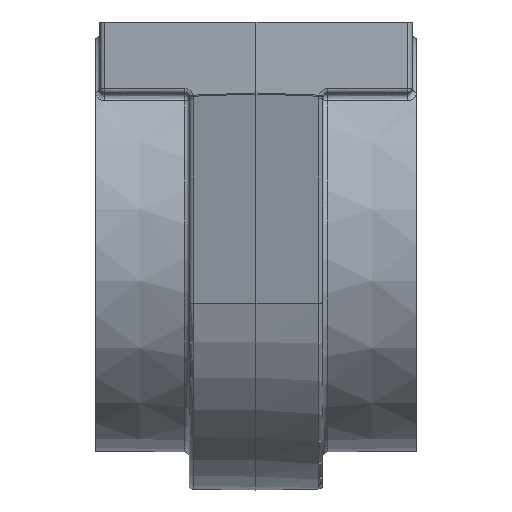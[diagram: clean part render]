
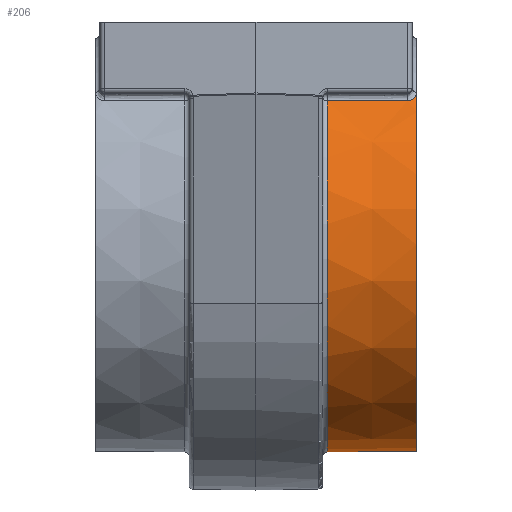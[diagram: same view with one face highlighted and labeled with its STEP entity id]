
A CAD part, left-side view. The second image highlights one B-rep face of the part: STEP entity #206.
In plain terms, the highlighted conical face has half-angle 0.5 degrees and reference radius 46.5 mm.
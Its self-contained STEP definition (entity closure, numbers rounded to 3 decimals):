
#49 = CARTESIAN_POINT ( 'NONE',  ( -31.367, -35.991, -9.956 ) ) ;
#87 = EDGE_CURVE ( 'NONE', #270, #4437, #3479, .T. ) ;
#117 = CARTESIAN_POINT ( 'NONE',  ( -31.598, -35.956, -10.169 ) ) ;
#139 = CARTESIAN_POINT ( 'NONE',  ( -33.031, -34.759, -11.553 ) ) ;
#171 = FACE_OUTER_BOUND ( 'NONE', #3664, .T. ) ;
#206 = ADVANCED_FACE ( 'NONE', ( #171 ), #820, .T. ) ;
#266 = ORIENTED_EDGE ( 'NONE', *, *, #87, .T. ) ;
#270 = VERTEX_POINT ( 'NONE', #3710 ) ;
#378 = CARTESIAN_POINT ( 'NONE',  ( -33.189, -33.325, -11.697 ) ) ;
#419 = CARTESIAN_POINT ( 'NONE',  ( 0., -12., 2.5 ) ) ;
#439 = CARTESIAN_POINT ( 'NONE',  ( 0., -35.991, -44. ) ) ;
#461 = CARTESIAN_POINT ( 'NONE',  ( -33.398, -15.991, -11.695 ) ) ;
#477 = VERTEX_POINT ( 'NONE', #1968 ) ;
#746 = CARTESIAN_POINT ( 'NONE',  ( -33.302, -23.992, -11.696 ) ) ;
#751 = CIRCLE ( 'NONE', #4375, 46.291 ) ;
#820 = CONICAL_SURFACE ( 'NONE', #3311, 46.5, 0.009 ) ;
#881 = VERTEX_POINT ( 'NONE', #4145 ) ;
#1039 = VECTOR ( 'NONE', #1814, 1000. ) ;
#1088 = CARTESIAN_POINT ( 'NONE',  ( -33.181, -33.991, -11.698 ) ) ;
#1119 = VECTOR ( 'NONE', #2840, 1000. ) ;
#1149 = CARTESIAN_POINT ( 'NONE',  ( -32.653, -35.353, -11.18 ) ) ;
#1247 = CARTESIAN_POINT ( 'NONE',  ( -33.398, -15.991, -11.695 ) ) ;
#1262 = CIRCLE ( 'NONE', #1849, 46.465 ) ;
#1351 = ORIENTED_EDGE ( 'NONE', *, *, #2008, .F. ) ;
#1358 = ORIENTED_EDGE ( 'NONE', *, *, #3316, .F. ) ;
#1450 = CARTESIAN_POINT ( 'NONE',  ( -31.13, -35.991, -9.74 ) ) ;
#1490 = ORIENTED_EDGE ( 'NONE', *, *, #1692, .T. ) ;
#1495 = CARTESIAN_POINT ( 'NONE',  ( -33.181, -33.991, -11.698 ) ) ;
#1496 = DIRECTION ( 'NONE',  ( 0., 0., -1. ) ) ;
#1540 = CARTESIAN_POINT ( 'NONE',  ( 0., -15.991, -44. ) ) ;
#1692 = EDGE_CURVE ( 'NONE', #4368, #881, #751, .T. ) ;
#1791 = CARTESIAN_POINT ( 'NONE',  ( -33.179, -34.153, -11.698 ) ) ;
#1794 = DIRECTION ( 'NONE',  ( 0., 0., -1. ) ) ;
#1814 = DIRECTION ( 'NONE',  ( 0., 1., 0.009 ) ) ;
#1849 = AXIS2_PLACEMENT_3D ( 'NONE', #1540, #3611, #1496 ) ;
#1914 = ORIENTED_EDGE ( 'NONE', *, *, #2255, .T. ) ;
#1968 = CARTESIAN_POINT ( 'NONE',  ( 0., -35.991, 2.291 ) ) ;
#2008 = EDGE_CURVE ( 'NONE', #4368, #2367, #3192, .T. ) ;
#2055 = B_SPLINE_CURVE_WITH_KNOTS ( 'NONE', 3,
 ( #1495, #1791, #3610, #3191, #139, #2884, #4262, #1149, #2200, #3580, #3260, #117, #49, #1450 ),
 .UNSPECIFIED., .F., .F.,
 ( 4, 2, 2, 2, 2, 2, 4 ),
 ( 0., 0., 0.001, 0.001, 0.002, 0.003, 0.004 ),
 .UNSPECIFIED. ) ;
#2061 = EDGE_CURVE ( 'NONE', #881, #477, #4239, .T. ) ;
#2097 = CARTESIAN_POINT ( 'NONE',  ( 0., -12., -90.5 ) ) ;
#2200 = CARTESIAN_POINT ( 'NONE',  ( -32.559, -35.447, -11.088 ) ) ;
#2255 = EDGE_CURVE ( 'NONE', #4437, #2367, #1262, .T. ) ;
#2367 = VERTEX_POINT ( 'NONE', #3533 ) ;
#2492 = CARTESIAN_POINT ( 'NONE',  ( -33.205, -31.991, -11.697 ) ) ;
#2521 = AXIS2_PLACEMENT_3D ( 'NONE', #439, #3142, #1794 ) ;
#2575 = CARTESIAN_POINT ( 'NONE',  ( 0., -12., -44. ) ) ;
#2622 = VERTEX_POINT ( 'NONE', #3418 ) ;
#2753 = CARTESIAN_POINT ( 'NONE',  ( 0., -36., -90.291 ) ) ;
#2829 = CARTESIAN_POINT ( 'NONE',  ( -33.197, -32.658, -11.697 ) ) ;
#2840 = DIRECTION ( 'NONE',  ( 0., 1., -0.009 ) ) ;
#2848 = ORIENTED_EDGE ( 'NONE', *, *, #3152, .T. ) ;
#2884 = CARTESIAN_POINT ( 'NONE',  ( -32.9, -35.023, -11.423 ) ) ;
#2967 = DIRECTION ( 'NONE',  ( 0., 1., 0. ) ) ;
#3142 = DIRECTION ( 'NONE',  ( 0., -1., 0. ) ) ;
#3152 = EDGE_CURVE ( 'NONE', #477, #2622, #3812, .T. ) ;
#3191 = CARTESIAN_POINT ( 'NONE',  ( -33.084, -34.617, -11.606 ) ) ;
#3192 = LINE ( 'NONE', #2097, #1119 ) ;
#3260 = CARTESIAN_POINT ( 'NONE',  ( -32.046, -35.807, -10.591 ) ) ;
#3311 = AXIS2_PLACEMENT_3D ( 'NONE', #2575, #2967, #4002 ) ;
#3316 = EDGE_CURVE ( 'NONE', #270, #2622, #2055, .T. ) ;
#3410 = ORIENTED_EDGE ( 'NONE', *, *, #2061, .T. ) ;
#3418 = CARTESIAN_POINT ( 'NONE',  ( -31.13, -35.991, -9.74 ) ) ;
#3479 = B_SPLINE_CURVE_WITH_KNOTS ( 'NONE', 3,
 ( #1088, #378, #2829, #2492, #4208, #3869, #746, #3687, #4339, #1247 ),
 .UNSPECIFIED., .F., .F.,
 ( 4, 3, 3, 4 ),
 ( 0., 0.002, 0.01, 0.018 ),
 .UNSPECIFIED. ) ;
#3533 = CARTESIAN_POINT ( 'NONE',  ( 0., -15.991, -90.465 ) ) ;
#3580 = CARTESIAN_POINT ( 'NONE',  ( -32.265, -35.691, -10.802 ) ) ;
#3610 = CARTESIAN_POINT ( 'NONE',  ( -33.158, -34.313, -11.678 ) ) ;
#3611 = DIRECTION ( 'NONE',  ( 0., -1., 0. ) ) ;
#3613 = DIRECTION ( 'NONE',  ( 0., 0., -1. ) ) ;
#3664 = EDGE_LOOP ( 'NONE', ( #1351, #1490, #3410, #2848, #1358, #266, #1914 ) ) ;
#3687 = CARTESIAN_POINT ( 'NONE',  ( -33.334, -21.325, -11.696 ) ) ;
#3710 = CARTESIAN_POINT ( 'NONE',  ( -33.181, -33.991, -11.698 ) ) ;
#3812 = CIRCLE ( 'NONE', #2521, 46.291 ) ;
#3869 = CARTESIAN_POINT ( 'NONE',  ( -33.269, -26.658, -11.697 ) ) ;
#3980 = CARTESIAN_POINT ( 'NONE',  ( 0., -36., -44. ) ) ;
#4002 = DIRECTION ( 'NONE',  ( 0., 0., 1. ) ) ;
#4145 = CARTESIAN_POINT ( 'NONE',  ( 0., -36., 2.291 ) ) ;
#4208 = CARTESIAN_POINT ( 'NONE',  ( -33.237, -29.325, -11.697 ) ) ;
#4239 = LINE ( 'NONE', #419, #1039 ) ;
#4262 = CARTESIAN_POINT ( 'NONE',  ( -32.823, -35.14, -11.348 ) ) ;
#4285 = DIRECTION ( 'NONE',  ( 0., 1., 0. ) ) ;
#4339 = CARTESIAN_POINT ( 'NONE',  ( -33.366, -18.658, -11.696 ) ) ;
#4368 = VERTEX_POINT ( 'NONE', #2753 ) ;
#4375 = AXIS2_PLACEMENT_3D ( 'NONE', #3980, #4285, #3613 ) ;
#4437 = VERTEX_POINT ( 'NONE', #461 ) ;
